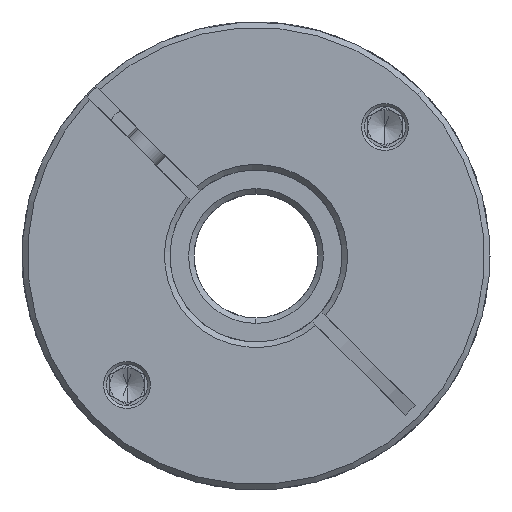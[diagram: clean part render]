
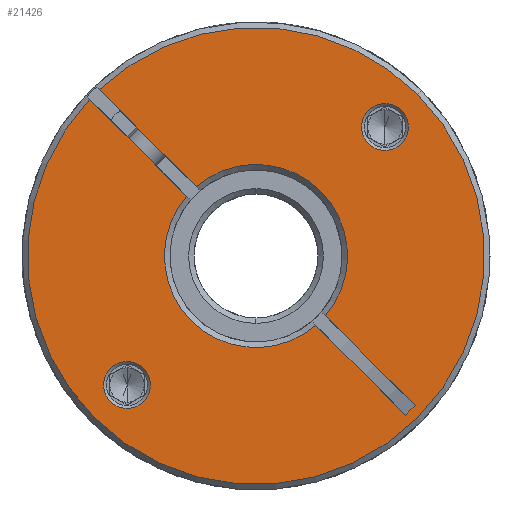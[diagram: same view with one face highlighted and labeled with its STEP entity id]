
A CAD part, front view. The second image highlights one B-rep face of the part: STEP entity #21426.
In plain terms, the highlighted planar face has unit normal (0, -1, 0).
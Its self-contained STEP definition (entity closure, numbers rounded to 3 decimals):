
#101 = CIRCLE ( 'NONE', #5508, 3.4 ) ;
#160 = EDGE_CURVE ( 'NONE', #5410, #12025, #6959, .T. ) ;
#222 = VECTOR ( 'NONE', #13219, 1000. ) ;
#307 = VECTOR ( 'NONE', #15007, 1000. ) ;
#463 = VERTEX_POINT ( 'NONE', #3200 ) ;
#594 = DIRECTION ( 'NONE',  ( 0.707, 0., 0.707 ) ) ;
#743 = CARTESIAN_POINT ( 'NONE',  ( -2.028, -67.045, 68.707 ) ) ;
#1012 = CARTESIAN_POINT ( 'NONE',  ( -2.735, -67.045, 68. ) ) ;
#1043 = EDGE_LOOP ( 'NONE', ( #6943, #4413 ) ) ;
#1308 = LINE ( 'NONE', #19912, #16120 ) ;
#2431 = EDGE_CURVE ( 'NONE', #12025, #14884, #18293, .T. ) ;
#2480 = CARTESIAN_POINT ( 'NONE',  ( -26.211, -67.045, 44.524 ) ) ;
#2523 = VERTEX_POINT ( 'NONE', #8315 ) ;
#2752 = DIRECTION ( 'NONE',  ( 0., -1., 0. ) ) ;
#2818 = DIRECTION ( 'NONE',  ( 0., -1., 0. ) ) ;
#3028 = CARTESIAN_POINT ( 'NONE',  ( 16.003, -67.045, 86.738 ) ) ;
#3162 = AXIS2_PLACEMENT_3D ( 'NONE', #3028, #14664, #6205 ) ;
#3200 = CARTESIAN_POINT ( 'NONE',  ( 13.599, -67.045, 84.334 ) ) ;
#3295 = ORIENTED_EDGE ( 'NONE', *, *, #16248, .T. ) ;
#3518 = AXIS2_PLACEMENT_3D ( 'NONE', #16015, #17606, #19140 ) ;
#3536 = ORIENTED_EDGE ( 'NONE', *, *, #10832, .T. ) ;
#3808 = CARTESIAN_POINT ( 'NONE',  ( -23.878, -67.045, 46.858 ) ) ;
#4005 = CIRCLE ( 'NONE', #7626, 13.3 ) ;
#4045 = FACE_OUTER_BOUND ( 'NONE', #13880, .T. ) ;
#4196 = DIRECTION ( 'NONE',  ( 0.707, 0., -0.707 ) ) ;
#4358 = CIRCLE ( 'NONE', #14925, 3.4 ) ;
#4413 = ORIENTED_EDGE ( 'NONE', *, *, #18480, .T. ) ;
#4499 = DIRECTION ( 'NONE',  ( 0., 1., 0. ) ) ;
#4565 = EDGE_LOOP ( 'NONE', ( #6728, #18224 ) ) ;
#4567 = DIRECTION ( 'NONE',  ( 0.707, 0., 0.707 ) ) ;
#4697 = LINE ( 'NONE', #8295, #307 ) ;
#5326 = AXIS2_PLACEMENT_3D ( 'NONE', #19487, #4499, #4567 ) ;
#5410 = VERTEX_POINT ( 'NONE', #5919 ) ;
#5493 = AXIS2_PLACEMENT_3D ( 'NONE', #19368, #7622, #5984 ) ;
#5508 = AXIS2_PLACEMENT_3D ( 'NONE', #17927, #19598, #16752 ) ;
#5532 = EDGE_CURVE ( 'NONE', #15171, #8681, #101, .T. ) ;
#5919 = CARTESIAN_POINT ( 'NONE',  ( -25.493, -67.045, 92.172 ) ) ;
#5984 = DIRECTION ( 'NONE',  ( 0.707, 0., 0.707 ) ) ;
#6205 = DIRECTION ( 'NONE',  ( 0.707, 0., 0.707 ) ) ;
#6396 = FACE_BOUND ( 'NONE', #4565, .T. ) ;
#6728 = ORIENTED_EDGE ( 'NONE', *, *, #5532, .T. ) ;
#6943 = ORIENTED_EDGE ( 'NONE', *, *, #8390, .T. ) ;
#6959 = LINE ( 'NONE', #743, #11604 ) ;
#7035 = DIRECTION ( 'NONE',  ( 0., 1., 0. ) ) ;
#7430 = CARTESIAN_POINT ( 'NONE',  ( -2.735, -67.045, 68. ) ) ;
#7613 = DIRECTION ( 'NONE',  ( 0., 1., 0. ) ) ;
#7622 = DIRECTION ( 'NONE',  ( 0., 1., 0. ) ) ;
#7626 = AXIS2_PLACEMENT_3D ( 'NONE', #12826, #7613, #11001 ) ;
#7713 = EDGE_CURVE ( 'NONE', #11858, #20974, #1308, .T. ) ;
#8216 = VECTOR ( 'NONE', #20468, 1000. ) ;
#8295 = CARTESIAN_POINT ( 'NONE',  ( 18.988, -67.045, 44.862 ) ) ;
#8315 = CARTESIAN_POINT ( 'NONE',  ( 20.402, -67.045, 46.277 ) ) ;
#8354 = VERTEX_POINT ( 'NONE', #21429 ) ;
#8390 = EDGE_CURVE ( 'NONE', #13028, #463, #4358, .T. ) ;
#8504 = FACE_BOUND ( 'NONE', #1043, .T. ) ;
#8681 = VERTEX_POINT ( 'NONE', #3808 ) ;
#8864 = ORIENTED_EDGE ( 'NONE', *, *, #15295, .F. ) ;
#9607 = VERTEX_POINT ( 'NONE', #16559 ) ;
#10065 = AXIS2_PLACEMENT_3D ( 'NONE', #7430, #13805, #594 ) ;
#10172 = CIRCLE ( 'NONE', #3162, 3.4 ) ;
#10358 = CARTESIAN_POINT ( 'NONE',  ( -2.028, -67.045, 68.707 ) ) ;
#10567 = AXIS2_PLACEMENT_3D ( 'NONE', #15890, #2818, #17415 ) ;
#10662 = AXIS2_PLACEMENT_3D ( 'NONE', #1012, #2752, #15974 ) ;
#10832 = EDGE_CURVE ( 'NONE', #9607, #5410, #15215, .T. ) ;
#10860 = CARTESIAN_POINT ( 'NONE',  ( 18.407, -67.045, 89.142 ) ) ;
#11001 = DIRECTION ( 'NONE',  ( 0.707, 0., 0.707 ) ) ;
#11023 = EDGE_CURVE ( 'NONE', #8354, #2523, #11032, .T. ) ;
#11026 = DIRECTION ( 'NONE',  ( 0.707, 0., 0.707 ) ) ;
#11032 = LINE ( 'NONE', #10358, #8216 ) ;
#11096 = CARTESIAN_POINT ( 'NONE',  ( -19.069, -67.045, 51.666 ) ) ;
#11120 = CARTESIAN_POINT ( 'NONE',  ( -26.908, -67.045, 90.758 ) ) ;
#11255 = EDGE_CURVE ( 'NONE', #14884, #8354, #4005, .T. ) ;
#11604 = VECTOR ( 'NONE', #4196, 1000. ) ;
#11858 = VERTEX_POINT ( 'NONE', #11120 ) ;
#12025 = VERTEX_POINT ( 'NONE', #17971 ) ;
#12652 = ORIENTED_EDGE ( 'NONE', *, *, #2431, .T. ) ;
#12714 = ORIENTED_EDGE ( 'NONE', *, *, #160, .T. ) ;
#12826 = CARTESIAN_POINT ( 'NONE',  ( -2.735, -67.045, 68. ) ) ;
#12907 = CARTESIAN_POINT ( 'NONE',  ( -12.82, -67.045, 76.671 ) ) ;
#13028 = VERTEX_POINT ( 'NONE', #10860 ) ;
#13219 = DIRECTION ( 'NONE',  ( 0.707, 0., -0.707 ) ) ;
#13649 = DIRECTION ( 'NONE',  ( 0.707, 0., 0.707 ) ) ;
#13753 = LINE ( 'NONE', #21206, #222 ) ;
#13805 = DIRECTION ( 'NONE',  ( 0., -1., 0. ) ) ;
#13834 = EDGE_CURVE ( 'NONE', #2523, #14123, #4697, .T. ) ;
#13880 = EDGE_LOOP ( 'NONE', ( #15543, #3295, #14915, #3536, #12714, #12652, #15842, #17067, #15342, #8864, #20586 ) ) ;
#14123 = VERTEX_POINT ( 'NONE', #17533 ) ;
#14399 = CIRCLE ( 'NONE', #5493, 13.3 ) ;
#14429 = CARTESIAN_POINT ( 'NONE',  ( 5.936, -67.045, 57.915 ) ) ;
#14664 = DIRECTION ( 'NONE',  ( 0., 1., 0. ) ) ;
#14884 = VERTEX_POINT ( 'NONE', #19903 ) ;
#14915 = ORIENTED_EDGE ( 'NONE', *, *, #21410, .T. ) ;
#14925 = AXIS2_PLACEMENT_3D ( 'NONE', #15378, #7035, #13649 ) ;
#15007 = DIRECTION ( 'NONE',  ( -0.707, 0., -0.707 ) ) ;
#15171 = VERTEX_POINT ( 'NONE', #11096 ) ;
#15215 = CIRCLE ( 'NONE', #10662, 33.2 ) ;
#15295 = EDGE_CURVE ( 'NONE', #20634, #14123, #13753, .T. ) ;
#15342 = ORIENTED_EDGE ( 'NONE', *, *, #13834, .T. ) ;
#15378 = CARTESIAN_POINT ( 'NONE',  ( 16.003, -67.045, 86.738 ) ) ;
#15543 = ORIENTED_EDGE ( 'NONE', *, *, #7713, .F. ) ;
#15842 = ORIENTED_EDGE ( 'NONE', *, *, #11255, .T. ) ;
#15890 = CARTESIAN_POINT ( 'NONE',  ( -2.735, -67.045, 68. ) ) ;
#15974 = DIRECTION ( 'NONE',  ( 0.707, 0., 0.707 ) ) ;
#16015 = CARTESIAN_POINT ( 'NONE',  ( -2.735, -67.045, 68. ) ) ;
#16096 = VERTEX_POINT ( 'NONE', #2480 ) ;
#16120 = VECTOR ( 'NONE', #16438, 1000. ) ;
#16248 = EDGE_CURVE ( 'NONE', #11858, #16096, #17880, .T. ) ;
#16438 = DIRECTION ( 'NONE',  ( 0.707, 0., -0.707 ) ) ;
#16559 = CARTESIAN_POINT ( 'NONE',  ( 20.741, -67.045, 91.476 ) ) ;
#16752 = DIRECTION ( 'NONE',  ( 0.707, 0., 0.707 ) ) ;
#17009 = EDGE_CURVE ( 'NONE', #8681, #15171, #19082, .T. ) ;
#17067 = ORIENTED_EDGE ( 'NONE', *, *, #11023, .T. ) ;
#17415 = DIRECTION ( 'NONE',  ( 0.707, 0., 0.707 ) ) ;
#17532 = AXIS2_PLACEMENT_3D ( 'NONE', #17555, #17713, #11026 ) ;
#17533 = CARTESIAN_POINT ( 'NONE',  ( 18.988, -67.045, 44.862 ) ) ;
#17555 = CARTESIAN_POINT ( 'NONE',  ( -2.735, -67.045, 68. ) ) ;
#17606 = DIRECTION ( 'NONE',  ( 0., 1., 0. ) ) ;
#17654 = EDGE_CURVE ( 'NONE', #20634, #20974, #14399, .T. ) ;
#17713 = DIRECTION ( 'NONE',  ( 0., -1., 0. ) ) ;
#17880 = CIRCLE ( 'NONE', #10065, 33.2 ) ;
#17927 = CARTESIAN_POINT ( 'NONE',  ( -21.473, -67.045, 49.262 ) ) ;
#17971 = CARTESIAN_POINT ( 'NONE',  ( -11.406, -67.045, 78.085 ) ) ;
#18224 = ORIENTED_EDGE ( 'NONE', *, *, #17009, .T. ) ;
#18293 = CIRCLE ( 'NONE', #3518, 13.3 ) ;
#18357 = CIRCLE ( 'NONE', #10567, 33.2 ) ;
#18480 = EDGE_CURVE ( 'NONE', #463, #13028, #10172, .T. ) ;
#19082 = CIRCLE ( 'NONE', #5326, 3.4 ) ;
#19140 = DIRECTION ( 'NONE',  ( 0.707, 0., 0.707 ) ) ;
#19368 = CARTESIAN_POINT ( 'NONE',  ( -2.735, -67.045, 68. ) ) ;
#19487 = CARTESIAN_POINT ( 'NONE',  ( -21.473, -67.045, 49.262 ) ) ;
#19598 = DIRECTION ( 'NONE',  ( 0., 1., 0. ) ) ;
#19903 = CARTESIAN_POINT ( 'NONE',  ( 6.669, -67.045, 77.405 ) ) ;
#19912 = CARTESIAN_POINT ( 'NONE',  ( -3.442, -67.045, 67.293 ) ) ;
#20468 = DIRECTION ( 'NONE',  ( 0.707, 0., -0.707 ) ) ;
#20586 = ORIENTED_EDGE ( 'NONE', *, *, #17654, .T. ) ;
#20634 = VERTEX_POINT ( 'NONE', #14429 ) ;
#20920 = PLANE ( 'NONE',  #17532 ) ;
#20974 = VERTEX_POINT ( 'NONE', #12907 ) ;
#21206 = CARTESIAN_POINT ( 'NONE',  ( -3.442, -67.045, 67.293 ) ) ;
#21410 = EDGE_CURVE ( 'NONE', #16096, #9607, #18357, .T. ) ;
#21426 = ADVANCED_FACE ( 'NONE', ( #8504, #6396, #4045 ), #20920, .T. ) ;
#21429 = CARTESIAN_POINT ( 'NONE',  ( 7.35, -67.045, 59.329 ) ) ;
